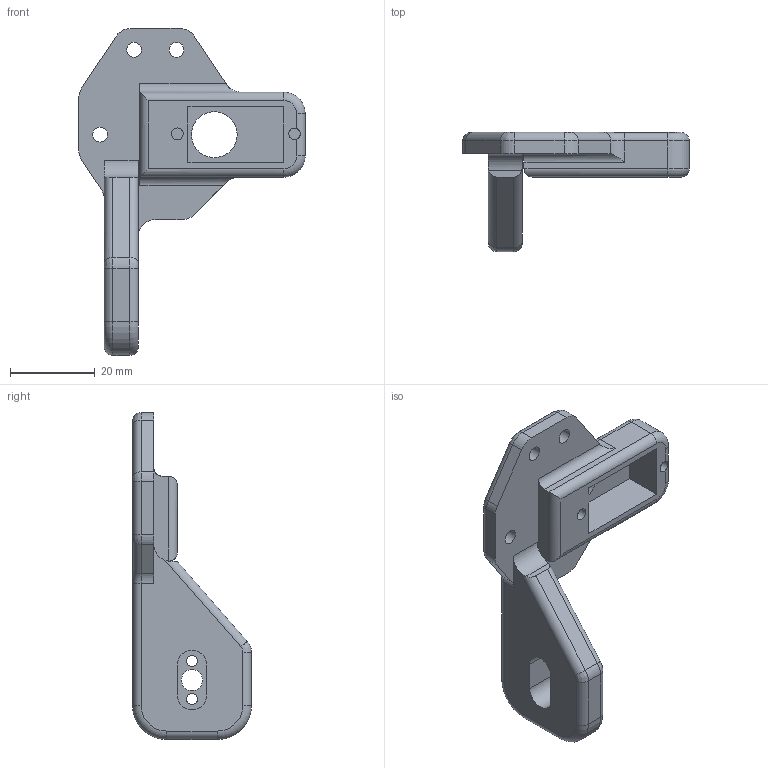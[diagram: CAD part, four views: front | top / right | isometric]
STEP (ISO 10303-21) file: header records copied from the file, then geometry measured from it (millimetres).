
FILE_DESCRIPTION(/* description */ (''),/* implementation_level */ '2;1');
FILE_NAME(/* name */ 'Gripper_Base.step',/* time_stamp */ '2024-01-03T12:17:37+05:30',/* author */ (''),/* organization */ (''),/* preprocessor_version */ 'ST-DEVELOPER v20',/* originating_system */ 'Autodesk Translation Framework v12.14.0.127',/* authorisation */ '');
FILE_SCHEMA (('AUTOMOTIVE_DESIGN { 1 0 10303 214 3 1 1 }'));
Length unit declared in the file: millimetre
Products named in the file (1): Gripper_Base
Bounding box: 53.3 x 28 x 77 mm (x, y, z)
Volume: 16040.6 mm3; surface area: 7963.9 mm2
Topology: 1 solids, 1 shells, 99 faces, 242 edges, 148 vertices
Faces by surface type: cylinder 50, plane 30, torus 12, bspline 7
Full cylindrical faces by diameter (mm): 2.6 x2, 2.7 x1, 2.8 x1, 3.5 x3, 5 x1, 10.8 x1
Entity records: 3035 total; most frequent: CARTESIAN_POINT 590, DIRECTION 539, ORIENTED_EDGE 484, EDGE_CURVE 242, AXIS2_PLACEMENT_3D 209, VERTEX_POINT 148, LINE 121, VECTOR 121
